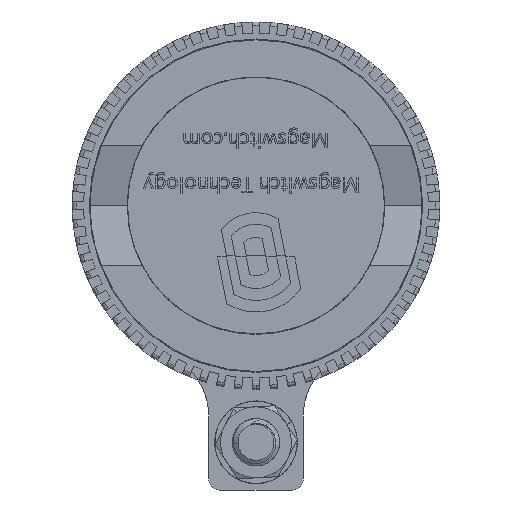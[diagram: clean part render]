
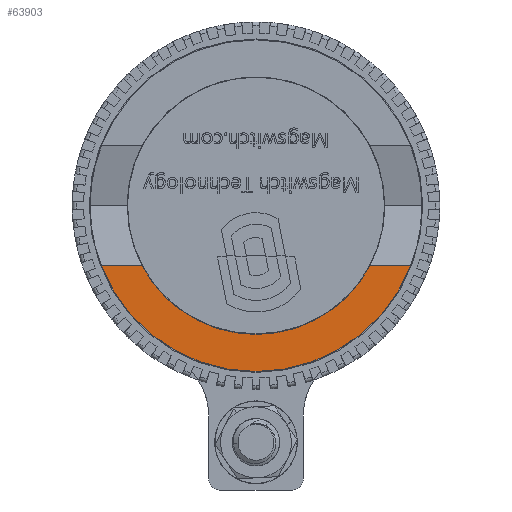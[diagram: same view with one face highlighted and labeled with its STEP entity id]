
A CAD part, front view. The second image highlights one B-rep face of the part: STEP entity #63903.
In plain terms, the highlighted planar face has unit normal (0, -1, 0).
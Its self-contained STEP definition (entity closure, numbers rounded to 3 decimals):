
#4038 = EDGE_CURVE ( 'NONE', #68521, #98626, #13856, .T. ) ;
#5748 = VECTOR ( 'NONE', #84306, 1000. ) ;
#10871 = FACE_OUTER_BOUND ( 'NONE', #73997, .T. ) ;
#13856 = CIRCLE ( 'NONE', #96076, 44.5 ) ;
#14250 = VERTEX_POINT ( 'NONE', #92227 ) ;
#14858 = EDGE_CURVE ( 'NONE', #100359, #82607, #60417, .T. ) ;
#15377 = CARTESIAN_POINT ( 'NONE',  ( 30.607, 0., -16.043 ) ) ;
#18042 = ORIENTED_EDGE ( 'NONE', *, *, #14858, .T. ) ;
#22159 = ORIENTED_EDGE ( 'NONE', *, *, #89161, .F. ) ;
#24755 = CARTESIAN_POINT ( 'NONE',  ( 0., 0., 0. ) ) ;
#31139 = CIRCLE ( 'NONE', #54400, 44.5 ) ;
#32768 = ORIENTED_EDGE ( 'NONE', *, *, #38213, .F. ) ;
#36243 = EDGE_CURVE ( 'NONE', #82607, #14250, #86299, .T. ) ;
#37157 = CARTESIAN_POINT ( 'NONE',  ( 0., 0., -44.5 ) ) ;
#38213 = EDGE_CURVE ( 'NONE', #40710, #68521, #31139, .T. ) ;
#40710 = VERTEX_POINT ( 'NONE', #46242 ) ;
#42126 = DIRECTION ( 'NONE',  ( 0., 1., 0. ) ) ;
#42996 = AXIS2_PLACEMENT_3D ( 'NONE', #60122, #51723, #95353 ) ;
#45527 = DIRECTION ( 'NONE',  ( 0., 0., 1. ) ) ;
#45558 = DIRECTION ( 'NONE',  ( 0., 1., 0. ) ) ;
#46242 = CARTESIAN_POINT ( 'NONE',  ( 41.507, 0., -16.043 ) ) ;
#48547 = LINE ( 'NONE', #99472, #5748 ) ;
#51054 = DIRECTION ( 'NONE',  ( 0., 0., 1. ) ) ;
#51723 = DIRECTION ( 'NONE',  ( 0., 1., 0. ) ) ;
#53895 = DIRECTION ( 'NONE',  ( 0., 1., 0. ) ) ;
#54400 = AXIS2_PLACEMENT_3D ( 'NONE', #90543, #56973, #72677 ) ;
#56973 = DIRECTION ( 'NONE',  ( 0., 1., 0. ) ) ;
#60122 = CARTESIAN_POINT ( 'NONE',  ( 0., 0., 0. ) ) ;
#60386 = CARTESIAN_POINT ( 'NONE',  ( -41.507, 0., -16.043 ) ) ;
#60417 = CIRCLE ( 'NONE', #99721, 34.558 ) ;
#61179 = CARTESIAN_POINT ( 'NONE',  ( 0., 0., 0. ) ) ;
#62328 = DIRECTION ( 'NONE',  ( 0., 0., 1. ) ) ;
#63903 = ADVANCED_FACE ( 'NONE', ( #10871 ), #79120, .F. ) ;
#67001 = CARTESIAN_POINT ( 'NONE',  ( -44.5, 0., -16.043 ) ) ;
#68521 = VERTEX_POINT ( 'NONE', #37157 ) ;
#72677 = DIRECTION ( 'NONE',  ( 0., 0., 1. ) ) ;
#73997 = EDGE_LOOP ( 'NONE', ( #81100, #18042, #92196, #22159, #90724, #32768 ) ) ;
#74756 = VECTOR ( 'NONE', #77034, 1000. ) ;
#77034 = DIRECTION ( 'NONE',  ( 1., 0., 0. ) ) ;
#77663 = EDGE_CURVE ( 'NONE', #100359, #40710, #48547, .T. ) ;
#77985 = CARTESIAN_POINT ( 'NONE',  ( 0., 0., 0. ) ) ;
#79120 = PLANE ( 'NONE',  #42996 ) ;
#81100 = ORIENTED_EDGE ( 'NONE', *, *, #77663, .F. ) ;
#82607 = VERTEX_POINT ( 'NONE', #107334 ) ;
#84306 = DIRECTION ( 'NONE',  ( 1., 0., 0. ) ) ;
#86299 = CIRCLE ( 'NONE', #97116, 34.558 ) ;
#89161 = EDGE_CURVE ( 'NONE', #98626, #14250, #93267, .T. ) ;
#90543 = CARTESIAN_POINT ( 'NONE',  ( 0., 0., 0. ) ) ;
#90724 = ORIENTED_EDGE ( 'NONE', *, *, #4038, .F. ) ;
#92196 = ORIENTED_EDGE ( 'NONE', *, *, #36243, .T. ) ;
#92227 = CARTESIAN_POINT ( 'NONE',  ( -30.605, 0., -16.043 ) ) ;
#93267 = LINE ( 'NONE', #67001, #74756 ) ;
#95353 = DIRECTION ( 'NONE',  ( 0., 0., 1. ) ) ;
#96076 = AXIS2_PLACEMENT_3D ( 'NONE', #77985, #45558, #62328 ) ;
#97116 = AXIS2_PLACEMENT_3D ( 'NONE', #24755, #42126, #51054 ) ;
#98626 = VERTEX_POINT ( 'NONE', #60386 ) ;
#99472 = CARTESIAN_POINT ( 'NONE',  ( -44.5, 0., -16.043 ) ) ;
#99721 = AXIS2_PLACEMENT_3D ( 'NONE', #61179, #53895, #45527 ) ;
#100359 = VERTEX_POINT ( 'NONE', #15377 ) ;
#107334 = CARTESIAN_POINT ( 'NONE',  ( 0., 0., -34.558 ) ) ;
